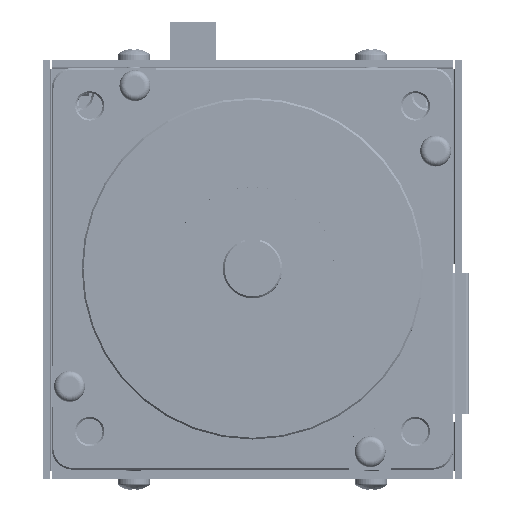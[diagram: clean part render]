
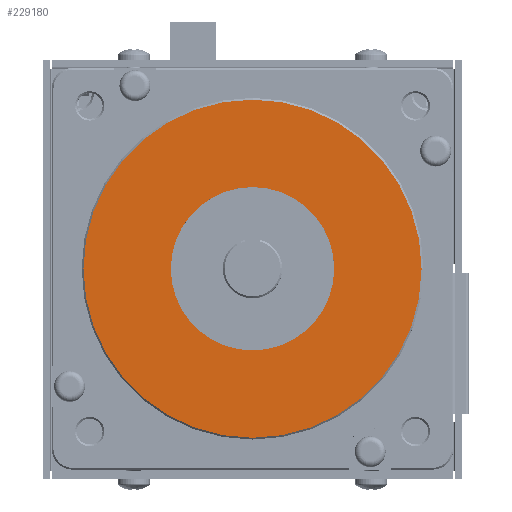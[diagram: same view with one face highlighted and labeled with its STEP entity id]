
A CAD part, top view. The second image highlights one B-rep face of the part: STEP entity #229180.
In plain terms, the highlighted planar face has unit normal (0, 0, 1).
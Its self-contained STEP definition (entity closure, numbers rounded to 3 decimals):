
#80682 = CARTESIAN_POINT ( 'NONE',  ( -36.132, 0., 1.524 ) ) ;
#80683 = CARTESIAN_POINT ( 'NONE',  ( 36.132, 0., 1.524 ) ) ;
#80685 = DIRECTION ( 'NONE',  ( 1., 0., 0. ) ) ;
#80687 = DIRECTION ( 'NONE',  ( 0., 0., 1. ) ) ;
#80688 = CARTESIAN_POINT ( 'NONE',  ( 0., 0., 1.524 ) ) ;
#80690 = AXIS2_PLACEMENT_3D ( 'NONE', #80688, #80687, #80685 ) ;
#80704 = CIRCLE ( 'NONE', #80690, 36.132 ) ;
#81831 = DIRECTION ( 'NONE',  ( 1., 0., 0. ) ) ;
#81832 = DIRECTION ( 'NONE',  ( 0., 0., 1. ) ) ;
#81834 = CARTESIAN_POINT ( 'NONE',  ( 0., 0., 1.524 ) ) ;
#81835 = AXIS2_PLACEMENT_3D ( 'NONE', #81834, #81832, #81831 ) ;
#81836 = CARTESIAN_POINT ( 'NONE',  ( -17.462, 0., 1.524 ) ) ;
#81844 = CIRCLE ( 'NONE', #81835, 17.462 ) ;
#81941 = CARTESIAN_POINT ( 'NONE',  ( 17.462, 0., 1.524 ) ) ;
#84938 = DIRECTION ( 'NONE',  ( 1., 0., 0. ) ) ;
#84939 = DIRECTION ( 'NONE',  ( 0., 0., 1. ) ) ;
#84940 = CARTESIAN_POINT ( 'NONE',  ( 0., 0., 1.524 ) ) ;
#84941 = AXIS2_PLACEMENT_3D ( 'NONE', #84940, #84939, #84938 ) ;
#84942 = CIRCLE ( 'NONE', #84941, 36.132 ) ;
#85171 = CIRCLE ( 'NONE', #85266, 17.462 ) ;
#85176 = CARTESIAN_POINT ( 'NONE',  ( 0., 0., 1.524 ) ) ;
#85264 = DIRECTION ( 'NONE',  ( 1., 0., 0. ) ) ;
#85265 = DIRECTION ( 'NONE',  ( 0., 0., 1. ) ) ;
#85266 = AXIS2_PLACEMENT_3D ( 'NONE', #85176, #85265, #85264 ) ;
#85284 = DIRECTION ( 'NONE',  ( 1., 0., 0. ) ) ;
#85285 = DIRECTION ( 'NONE',  ( 0., 0., 1. ) ) ;
#85287 = CARTESIAN_POINT ( 'NONE',  ( 0., 0., 1.524 ) ) ;
#85292 = AXIS2_PLACEMENT_3D ( 'NONE', #85287, #85285, #85284 ) ;
#85293 = PLANE ( 'NONE',  #85292 ) ;
#85295 = FACE_BOUND ( 'NONE', #229047, .T. ) ;
#85297 = FACE_OUTER_BOUND ( 'NONE', #229039, .T. ) ;
#227505 = EDGE_CURVE ( 'NONE', #227507, #227508, #80704, .T. ) ;
#227507 = VERTEX_POINT ( 'NONE', #80683 ) ;
#227508 = VERTEX_POINT ( 'NONE', #80682 ) ;
#227892 = EDGE_CURVE ( 'NONE', #227894, #227895, #81844, .T. ) ;
#227894 = VERTEX_POINT ( 'NONE', #81836 ) ;
#227895 = VERTEX_POINT ( 'NONE', #81941 ) ;
#229039 = EDGE_LOOP ( 'NONE', ( #229040, #229043 ) ) ;
#229040 = ORIENTED_EDGE ( 'NONE', *, *, #229041, .T. ) ;
#229041 = EDGE_CURVE ( 'NONE', #227508, #227507, #84942, .T. ) ;
#229043 = ORIENTED_EDGE ( 'NONE', *, *, #227505, .T. ) ;
#229047 = EDGE_LOOP ( 'NONE', ( #229143, #229144 ) ) ;
#229143 = ORIENTED_EDGE ( 'NONE', *, *, #227892, .F. ) ;
#229144 = ORIENTED_EDGE ( 'NONE', *, *, #229145, .F. ) ;
#229145 = EDGE_CURVE ( 'NONE', #227895, #227894, #85171, .T. ) ;
#229180 = ADVANCED_FACE ( 'NONE', ( #85297, #85295 ), #85293, .T. ) ;
